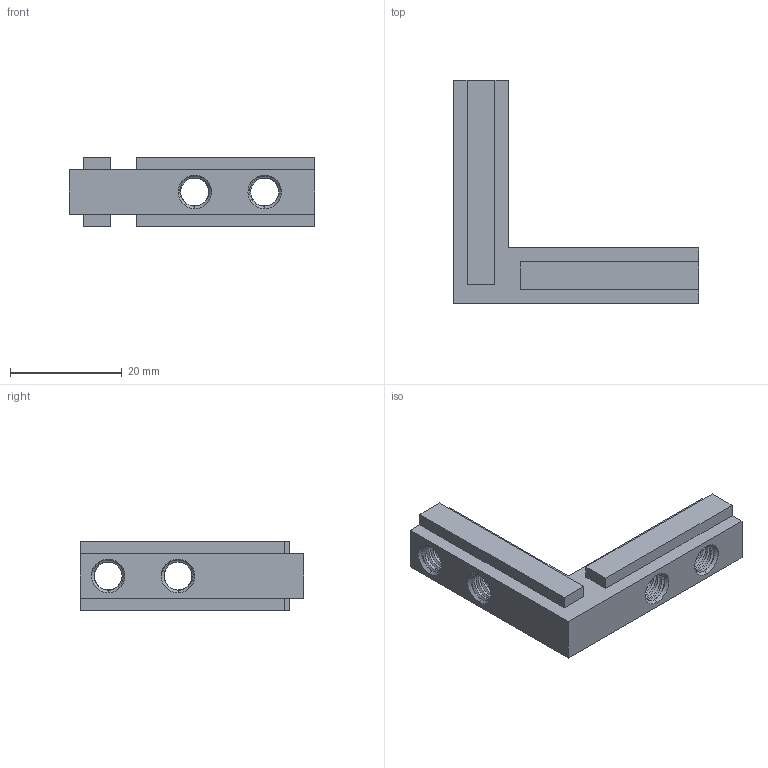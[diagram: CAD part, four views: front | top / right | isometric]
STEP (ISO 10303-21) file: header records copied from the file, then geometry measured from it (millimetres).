
FILE_DESCRIPTION (( 'STEP AP203' ), '1' );
FILE_NAME ('83-CE-IG4040-8.STEP', '2015-07-09T08:30:13', ( '' ), ( '' ), 'SwSTEP 2.0', 'SolidWorks 2013', '' );
FILE_SCHEMA (( 'CONFIG_CONTROL_DESIGN' ));
Length unit declared in the file: millimetre
Products named in the file (1): 83-CE-IG4040-8
Bounding box: 44 x 40 x 12.5 mm (x, y, z)
Volume: 6570.6 mm3; surface area: 4371.1 mm2
Topology: 1 solids, 1 shells, 134 faces, 380 edges, 248 vertices
Faces by surface type: cylinder 78, cone 24, plane 24, bspline 8
Entity records: 10193 total; most frequent: CARTESIAN_POINT 7155, ORIENTED_EDGE 760, DIRECTION 482, EDGE_CURVE 380, VERTEX_POINT 248, AXIS2_PLACEMENT_3D 163, LINE 156, VECTOR 156
